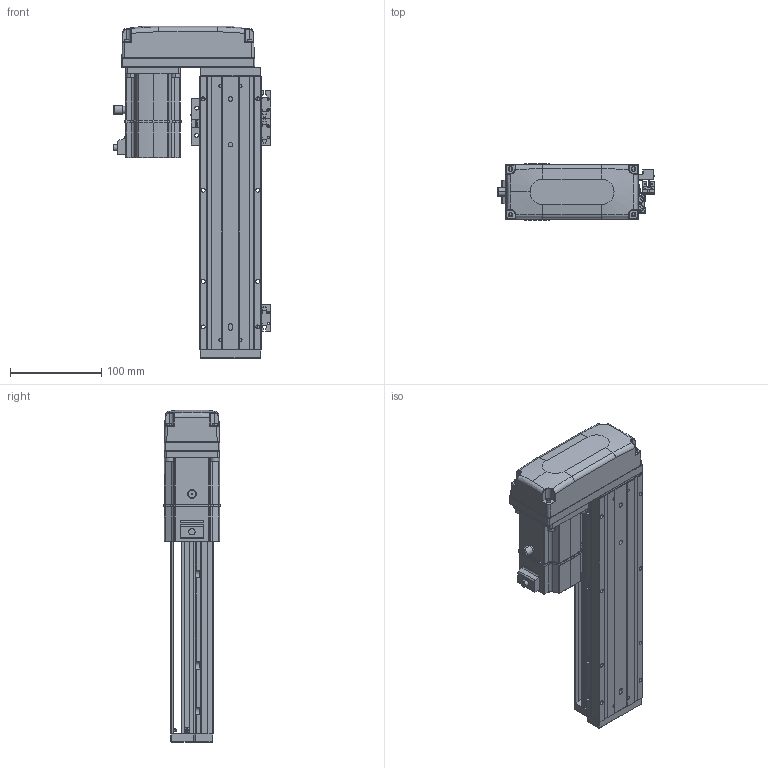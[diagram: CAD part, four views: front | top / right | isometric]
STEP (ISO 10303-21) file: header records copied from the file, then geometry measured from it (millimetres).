
FILE_DESCRIPTION (( 'STEP AP203' ), '1' );
FILE_NAME ('KTHA60-200-BR-M20-C4L.step', '2022-12-16T01:38:35', ( '微软用户' ), ( '微软中国' ), 'SwSTEP 2.0', 'SolidWorks 2020', '' );
FILE_SCHEMA (( 'CONFIG_CONTROL_DESIGN' ));
Length unit declared in the file: millimetre
Products named in the file (17): _X2_4E0983F1_X0_200W_1; KTHA60-005; GBT77-2000M3-3; KTHA60-200-BR-M20-C4L; GB¨uT 70.2-M3¡Á5_M3¡Á6; GBT 70.1-M3℅6; GBT 70.3-M3℅6; CTHA60-016; EE_SX911P_R; KTHA60-002; CTHA60-017; BTH80-026; KTHA60-001_300; CTHA60-021; CTHA60-006-2_CTHA60-006-2; KTHA60-004; GBT 70.1-M4×16
Assembly tree (51 placements, depth 2):
  KTHA60-200-BR-M20-C4L
    KTHA60-001_300
    KTHA60-004
    KTHA60-005
    GB¨uT 70.2-M3¡Á5_M3¡Á6  x6
    GBT 70.3-M3℅6  x4
    EE_SX911P_R  x3
    CTHA60-017  x3
    CTHA60-021  x2
    GBT 70.1-M4×16  x8
    GBT77-2000M3-3  x6
    GBT 70.1-M3℅6  x10
    CTHA60-016  x2
    KTHA60-002
    BTH80-026
    CTHA60-006-2_CTHA60-006-2
    _X2_4E0983F1_X0_200W_1
Bounding box: 173.02 x 62.42 x 364 mm (x, y, z)
Volume: 1023068 mm3; surface area: 269962.6 mm2
Topology: 54 solids, 54 shells, 2388 faces, 5661 edges, 3478 vertices
Faces by surface type: plane 1261, cylinder 632, cone 278, bspline 109, torus 92, sphere 16
Entity records: 43594 total; most frequent: CARTESIAN_POINT 10258, ORIENTED_EDGE 6370, DIRECTION 6368, EDGE_CURVE 3185, AXIS2_PLACEMENT_3D 2207, VERTEX_POINT 1987, LINE 1954, VECTOR 1954
